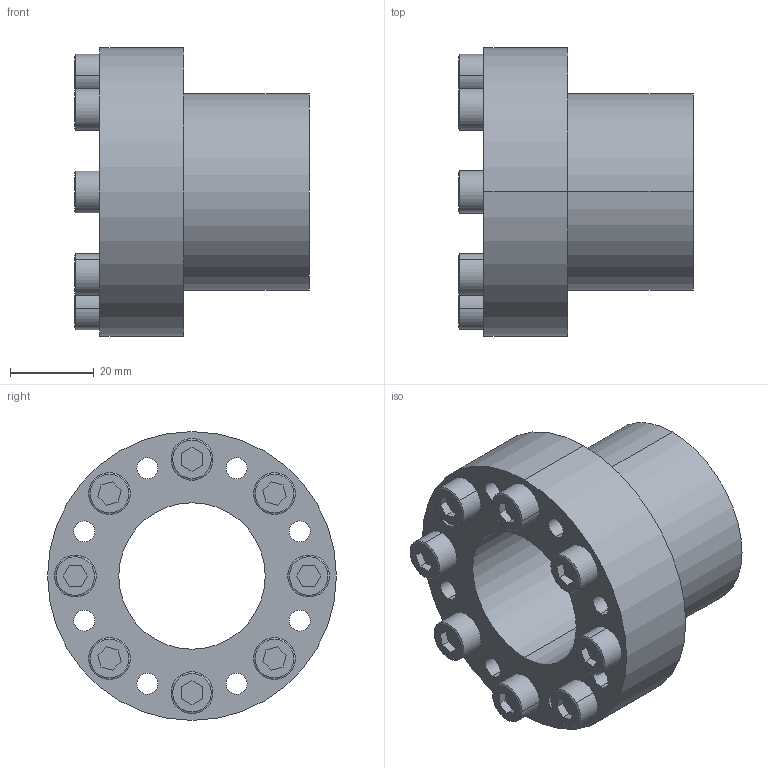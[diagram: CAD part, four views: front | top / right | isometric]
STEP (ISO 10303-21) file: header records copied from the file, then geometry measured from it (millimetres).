
FILE_DESCRIPTION (( 'STEP AP203' ), '1' );
FILE_NAME ('SB-35.STEP', '2009-09-29T15:49:29', ( 'USER' ), ( 'HOME' ), 'SwSTEP 2.0', 'SolidWorks 2007', '' );
FILE_SCHEMA (( 'CONFIG_CONTROL_DESIGN' ));
Length unit declared in the file: millimetre
Products named in the file (1): SB-35
Bounding box: 56 x 69 x 69 mm (x, y, z)
Volume: 79704.2 mm3; surface area: 29781.8 mm2
Topology: 9 solids, 9 shells, 169 faces, 386 edges, 252 vertices
Faces by surface type: plane 83, cylinder 70, cone 16
Entity records: 4917 total; most frequent: DIRECTION 882, CARTESIAN_POINT 808, ORIENTED_EDGE 772, EDGE_CURVE 386, AXIS2_PLACEMENT_3D 326, VERTEX_POINT 252, VECTOR 230, LINE 230
